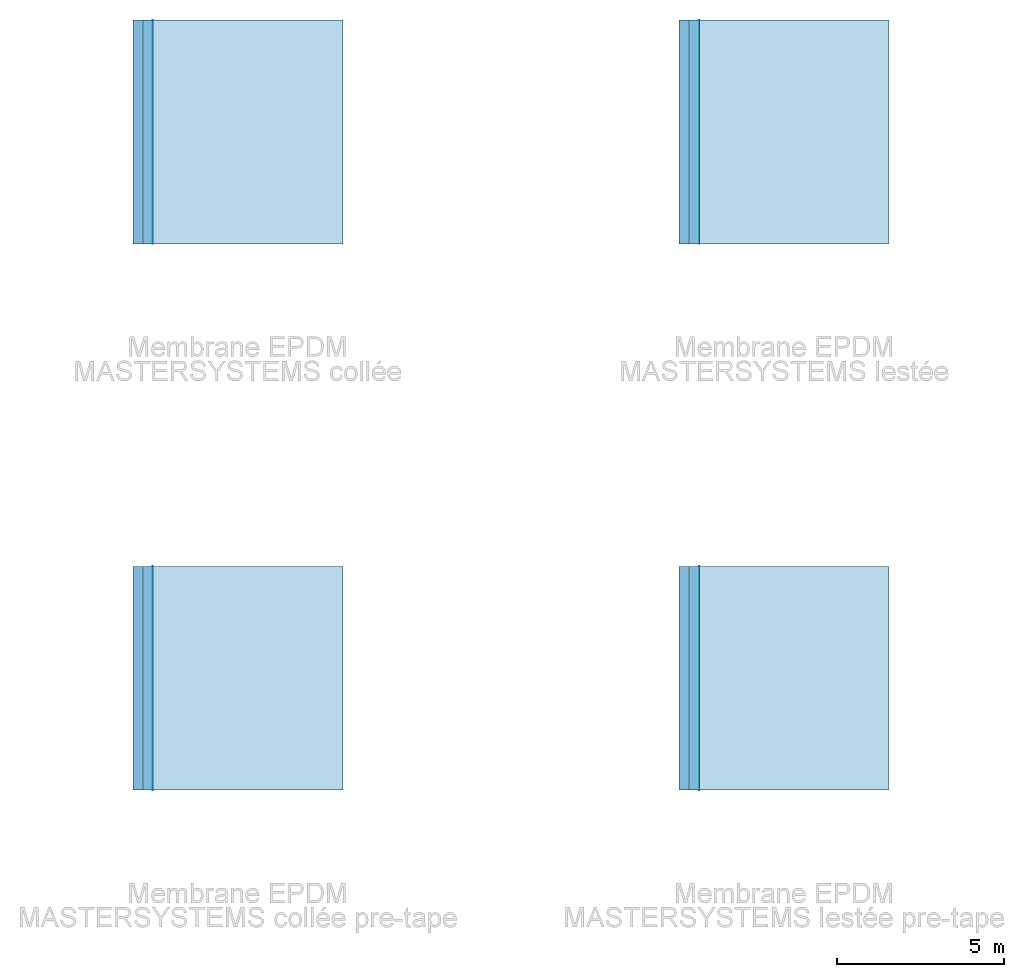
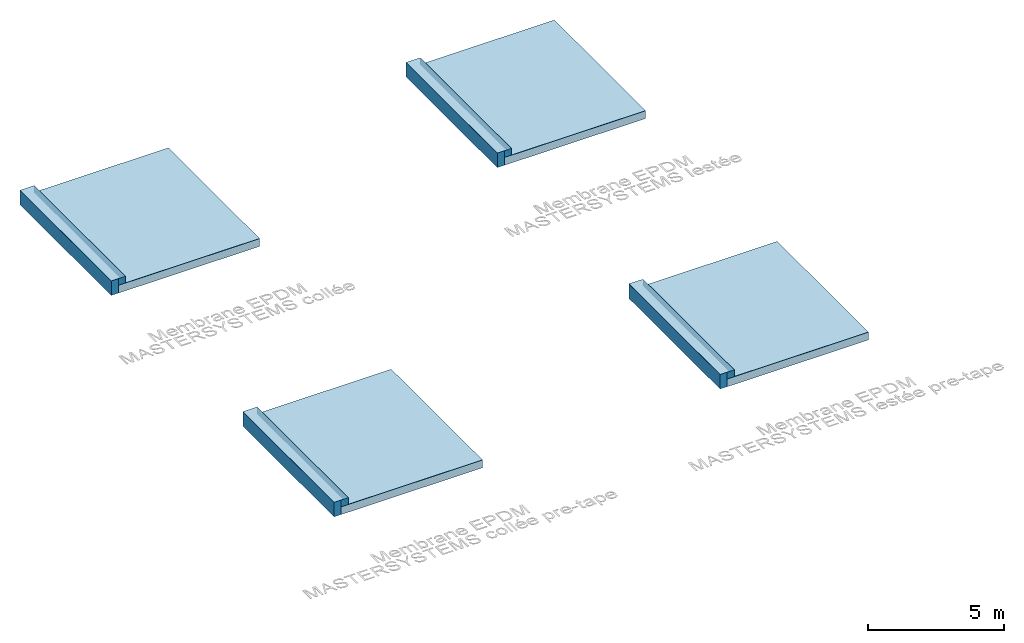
# One storey, incomplete: 12 slabs, 12 walls, 12 elements without a shape of their own.
"""IFC2X3 building model written with IfcOpenShell, lengths in millimetres."""

from ifc_helpers import new_model, entity, si_unit, converted_unit, derived_unit, direction, frame, frame_2d, origin, place, context, subcontext, project, spatial, polyline, rectangle, extrude, clip, bounded_halfspace, material, layer, layer_set, layer_usage, type_object, element, aggregate, save


model = new_model("IFC2X3")

# Units and contexts
model_context = context("Model", 3, precision=0.01, world=origin(), true_north=direction((6.12303176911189e-17, 1.0)))
body_context = subcontext(model_context, "Body", "Model", "MODEL_VIEW")
ifc_project = project(units=[si_unit("LENGTHUNIT", "METRE", prefix="MILLI"), si_unit("AREAUNIT", "SQUARE_METRE"), si_unit("VOLUMEUNIT", "CUBIC_METRE"), converted_unit("PLANEANGLEUNIT", "DEGREE", entity("IfcRatioMeasure", 0.0174532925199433), si_unit("PLANEANGLEUNIT", "RADIAN"), dimensions=[0, 0, 0, 0, 0, 0, 0]), si_unit("MASSUNIT", "GRAM", prefix="KILO"), derived_unit("MASSDENSITYUNIT", [(si_unit("MASSUNIT", "GRAM", prefix="KILO"), 1), (si_unit("LENGTHUNIT", "METRE"), -3)]), derived_unit("MOMENTOFINERTIAUNIT", [(si_unit("LENGTHUNIT", "METRE"), 4)]), si_unit("TIMEUNIT", "SECOND"), si_unit("FREQUENCYUNIT", "HERTZ"), si_unit("THERMODYNAMICTEMPERATUREUNIT", "DEGREE_CELSIUS"), derived_unit("THERMALTRANSMITTANCEUNIT", [(si_unit("MASSUNIT", "GRAM", prefix="KILO"), 1), (si_unit("THERMODYNAMICTEMPERATUREUNIT", "KELVIN"), -1), (si_unit("TIMEUNIT", "SECOND"), -3)]), derived_unit("VOLUMETRICFLOWRATEUNIT", [(si_unit("LENGTHUNIT", "METRE"), 3), (si_unit("TIMEUNIT", "SECOND"), -1)]), si_unit("ELECTRICCURRENTUNIT", "AMPERE"), si_unit("ELECTRICVOLTAGEUNIT", "VOLT"), si_unit("POWERUNIT", "WATT"), si_unit("FORCEUNIT", "NEWTON", prefix="KILO"), si_unit("ILLUMINANCEUNIT", "LUX"), si_unit("LUMINOUSFLUXUNIT", "LUMEN"), si_unit("LUMINOUSINTENSITYUNIT", "CANDELA"), derived_unit("USERDEFINED", [(si_unit("MASSUNIT", "GRAM", prefix="KILO"), -1), (si_unit("LENGTHUNIT", "METRE"), -2), (si_unit("TIMEUNIT", "SECOND"), 3), (si_unit("LUMINOUSFLUXUNIT", "LUMEN"), 1)]), derived_unit("LINEARVELOCITYUNIT", [(si_unit("LENGTHUNIT", "METRE"), 1), (si_unit("TIMEUNIT", "SECOND"), -1)]), si_unit("PRESSUREUNIT", "PASCAL"), derived_unit("USERDEFINED", [(si_unit("LENGTHUNIT", "METRE"), -2), (si_unit("MASSUNIT", "GRAM", prefix="KILO"), 1), (si_unit("TIMEUNIT", "SECOND"), -2)]), derived_unit("LINEARFORCEUNIT", [(si_unit("MASSUNIT", "GRAM", prefix="KILO"), 1), (si_unit("LENGTHUNIT", "METRE"), 1), (si_unit("TIMEUNIT", "SECOND"), -2), (si_unit("LENGTHUNIT", "METRE"), -1)]), derived_unit("PLANARFORCEUNIT", [(si_unit("MASSUNIT", "GRAM", prefix="KILO"), 1), (si_unit("LENGTHUNIT", "METRE"), 1), (si_unit("TIMEUNIT", "SECOND"), -2), (si_unit("LENGTHUNIT", "METRE"), -2)])], contexts=[model_context])

# Site, building, storey
site_placement = place(None, origin())
site = spatial("IfcSite", under=ifc_project, at=site_placement, Name="Default", CompositionType="ELEMENT")
building_placement = place(site_placement, origin())
building = spatial("IfcBuilding", under=site, at=building_placement, CompositionType="ELEMENT")
storey_placement = place(building_placement, origin())
storey = spatial("IfcBuildingStorey", under=building, at=storey_placement, Name="Niveau 1", CompositionType="ELEMENT", Elevation=0.0)

# Roof, slab
roof_1_placement = place(storey_placement, frame((23196.9860757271, 21211.4879507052, 0.0)))
roof_1 = element("IfcRoof", 1, at=roof_1_placement, inside=storey, Name="Toit de base:Membrane MASTERSYSTEMS EPDM lestée standard", ObjectType="Toit de base:Membrane MASTERSYSTEMS EPDM lestée standard", ShapeType="NOTDEFINED")
ifc_material_1 = material(Name="Film de protection polyester")
ifc_layer_1 = layer(ifc_material_1, 0.8)
ifc_material_2 = material(Name="Membrane EPDM caoutchouc MASTERSYSTEMS lestée")
ifc_layer_2 = layer(ifc_material_2, 2.2)
ifc_layer_set_1 = layer_set([ifc_layer_1, ifc_layer_2], Name="Toit de base:Membrane MASTERSYSTEMS EPDM lestée standard")
slab_type_1 = type_object("IfcSlabType", Name="Toit de base:Membrane MASTERSYSTEMS EPDM lestée standard", PredefinedType="ROOF")
slab_1_placement = place(roof_1_placement, origin())
slab_1 = element("IfcSlab", 2, at=slab_1_placement, type_object=slab_type_1, material=ifc_layer_set_1, Name="Toit de base:Membrane MASTERSYSTEMS EPDM lestée standard", ObjectType="Toit de base:Membrane MASTERSYSTEMS EPDM lestée standard", PredefinedType="ROOF", context=body_context, shape_type="SweptSolid", body=[
    extrude(rectangle(XDim=6714.46153846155, YDim=5699.99999999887, at=frame_2d((0.0, 0.0), x_axis=(0.0, 1.0))), frame((2850.0, 3357.23076923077, 0.0)), (0.0, 0.0, 1.0), 3.0),
])
aggregate(roof_1, [slab_1])

roof_2_placement = place(storey_placement, frame((22896.986075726, 21211.4879507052, -350.8)))
roof_2 = element("IfcRoof", 3, at=roof_2_placement, inside=storey, Name="Toit de base:Toit 1", ObjectType="Toit de base:Toit 1", ShapeType="NOTDEFINED")
ifc_material_3 = material(Name="Isolation")
ifc_layer_3 = layer(ifc_material_3, 100.0)
ifc_material_4 = material(Name="Pare vapeur")
ifc_layer_4 = layer(ifc_material_4, 0.8)
ifc_material_5 = material(Name="Béton de pente")
ifc_layer_5 = layer(ifc_material_5, 50.0)
ifc_material_6 = material(Name="Structure porteuse")
ifc_layer_6 = layer(ifc_material_6, 200.0)
ifc_layer_set_2 = layer_set([ifc_layer_3, ifc_layer_4, ifc_layer_5, ifc_layer_6], Name="Toit de base:Toit 1")
slab_type_2 = type_object("IfcSlabType", Name="Toit de base:Toit 1", PredefinedType="ROOF")
slab_2_placement = place(roof_2_placement, origin())
slab_2 = element("IfcSlab", 4, at=slab_2_placement, type_object=slab_type_2, material=ifc_layer_set_2, Name="Toit de base:Toit 1", ObjectType="Toit de base:Toit 1", PredefinedType="ROOF", context=body_context, shape_type="SweptSolid", body=[
    extrude(rectangle(XDim=6000.0, YDim=6714.46153846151, at=frame_2d((0.0, 2.27373675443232e-12), x_axis=(1.0, 0.0))), frame((3000.0, 3357.23076923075, 0.0)), (0.0, 0.0, 1.0), 350.8),
])
aggregate(roof_2, [slab_2])

roof_3_placement = place(storey_placement, frame((22596.9860757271, 21211.4879507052, 300.0)))
roof_3 = element("IfcRoof", 5, at=roof_3_placement, inside=storey, Name="Toit de base:Membrane MASTERSYSTEMS EPDM collée-Relevés et acrotères", ObjectType="Toit de base:Membrane MASTERSYSTEMS EPDM collée-Relevés et acrotères", ShapeType="NOTDEFINED")
ifc_material_7 = material(Name="Membrane EPDM caoutchouc MASTERSYSTEMS collée-Relevés et acrotères")
ifc_layer_7 = layer(ifc_material_7, 2.2)
ifc_material_8 = material(Name="Colle MASTERCONTACT PX300")
ifc_layer_8 = layer(ifc_material_8, 1.1)
ifc_layer_set_3 = layer_set([ifc_layer_7, ifc_layer_8], Name="Toit de base:Membrane MASTERSYSTEMS EPDM collée-Relevés et acrotères")
slab_type_3 = type_object("IfcSlabType", Name="Toit de base:Membrane MASTERSYSTEMS EPDM collée-Relevés et acrotères", PredefinedType="ROOF")
slab_3_placement = place(roof_3_placement, origin())
slab_3 = element("IfcSlab", 6, at=slab_3_placement, type_object=slab_type_3, material=ifc_layer_set_3, Name="Toit de base:Membrane MASTERSYSTEMS EPDM collée-Relevés et acrotères", ObjectType="Toit de base:Membrane MASTERSYSTEMS EPDM collée-Relevés et acrotères", PredefinedType="ROOF", context=body_context, shape_type="SweptSolid", body=[
    extrude(rectangle(XDim=6714.46153846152, YDim=603.299999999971, at=frame_2d((2.18847162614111e-12, 0.0), x_axis=(0.0, 1.0))), frame((301.649999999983, 3357.23076923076, 0.0)), (0.0, 0.0, 1.0), 3.29999999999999),
])
aggregate(roof_3, [slab_3])

roof_4_placement = place(storey_placement, frame((6801.7860757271, 21211.4879507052, 0.0)))
roof_4 = element("IfcRoof", 7, at=roof_4_placement, inside=storey, Name="Toit de base:Membrane MASTERSYSTEMS EPDM collée standard", ObjectType="Toit de base:Membrane MASTERSYSTEMS EPDM collée standard", ShapeType="NOTDEFINED")
ifc_material_9 = material(Name="Membrane EPDM caoutchouc MASTERSYSTEMS collée")
ifc_layer_9 = layer(ifc_material_9, 2.2)
ifc_layer_10 = layer(ifc_material_8, 1.1)
ifc_layer_set_4 = layer_set([ifc_layer_9, ifc_layer_10], Name="Toit de base:Membrane MASTERSYSTEMS EPDM collée standard")
slab_type_4 = type_object("IfcSlabType", Name="Toit de base:Membrane MASTERSYSTEMS EPDM collée standard", PredefinedType="ROOF")
slab_4_placement = place(roof_4_placement, origin())
slab_4 = element("IfcSlab", 8, at=slab_4_placement, type_object=slab_type_4, material=ifc_layer_set_4, Name="Toit de base:Membrane MASTERSYSTEMS EPDM collée standard", ObjectType="Toit de base:Membrane MASTERSYSTEMS EPDM collée standard", PredefinedType="ROOF", context=body_context, shape_type="SweptSolid", body=[
    extrude(rectangle(XDim=6714.46153846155, YDim=5699.99999999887, at=frame_2d((-6.82121026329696e-13, 0.0), x_axis=(0.0, 1.0))), frame((2850.0, 3357.23076923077, 0.0)), (0.0, 0.0, 1.0), 3.3),
])
aggregate(roof_4, [slab_4])

roof_5_placement = place(storey_placement, frame((6501.78607572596, 21211.4879507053, -350.8)))
roof_5 = element("IfcRoof", 9, at=roof_5_placement, inside=storey, Name="Toit de base:Toit 1", ObjectType="Toit de base:Toit 1", ShapeType="NOTDEFINED")
slab_type_5 = type_object("IfcSlabType", Name="Toit de base:Toit 1", PredefinedType="ROOF")
slab_5_placement = place(roof_5_placement, origin())
slab_5 = element("IfcSlab", 10, at=slab_5_placement, type_object=slab_type_5, material=ifc_layer_set_2, Name="Toit de base:Toit 1", ObjectType="Toit de base:Toit 1", PredefinedType="ROOF", context=body_context, shape_type="SweptSolid", body=[
    extrude(rectangle(XDim=6000.0, YDim=6714.46153846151, at=frame_2d((4.54747350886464e-13, 2.27373675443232e-12), x_axis=(1.0, 0.0))), frame((3000.0, 3357.23076923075, 0.0)), (0.0, 0.0, 1.0), 350.8),
])
aggregate(roof_5, [slab_5])

roof_6_placement = place(storey_placement, frame((6201.78607572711, 21211.4879507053, 300.0)))
roof_6 = element("IfcRoof", 11, at=roof_6_placement, inside=storey, Name="Toit de base:Membrane MASTERSYSTEMS EPDM collée-Relevés et acrotères", ObjectType="Toit de base:Membrane MASTERSYSTEMS EPDM collée-Relevés et acrotères", ShapeType="NOTDEFINED")
slab_type_6 = type_object("IfcSlabType", Name="Toit de base:Membrane MASTERSYSTEMS EPDM collée-Relevés et acrotères", PredefinedType="ROOF")
slab_6_placement = place(roof_6_placement, origin())
slab_6 = element("IfcSlab", 12, at=slab_6_placement, type_object=slab_type_6, material=ifc_layer_set_3, Name="Toit de base:Membrane MASTERSYSTEMS EPDM collée-Relevés et acrotères", ObjectType="Toit de base:Membrane MASTERSYSTEMS EPDM collée-Relevés et acrotères", PredefinedType="ROOF", context=body_context, shape_type="SweptSolid", body=[
    extrude(rectangle(XDim=6714.46153846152, YDim=603.299999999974, at=frame_2d((-5.40012479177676e-13, 0.0), x_axis=(0.0, 1.0))), frame((301.649999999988, 3357.23076923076, 0.0)), (0.0, 0.0, 1.0), 3.29999999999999),
])
aggregate(roof_6, [slab_6])

roof_7_placement = place(storey_placement, frame((6801.78607572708, 4816.28795070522, 0.0)))
roof_7 = element("IfcRoof", 13, at=roof_7_placement, inside=storey, Name="Toit de base:Membrane MASTERSYSTEMS EPDM collée pre-tape", ObjectType="Toit de base:Membrane MASTERSYSTEMS EPDM collée pre-tape", ShapeType="NOTDEFINED")
ifc_material_10 = material(Name="Membrane EPDM en caoutchouc MASTERSYSTEMS collée pre-tape")
ifc_layer_11 = layer(ifc_material_10, 2.2)
ifc_layer_12 = layer(ifc_material_8, 1.1)
ifc_layer_set_5 = layer_set([ifc_layer_11, ifc_layer_12], Name="Toit de base:Membrane MASTERSYSTEMS EPDM collée pre-tape")
slab_type_7 = type_object("IfcSlabType", Name="Toit de base:Membrane MASTERSYSTEMS EPDM collée pre-tape", PredefinedType="ROOF")
slab_7_placement = place(roof_7_placement, origin())
slab_7 = element("IfcSlab", 14, at=slab_7_placement, type_object=slab_type_7, material=ifc_layer_set_5, Name="Toit de base:Membrane MASTERSYSTEMS EPDM collée pre-tape", ObjectType="Toit de base:Membrane MASTERSYSTEMS EPDM collée pre-tape", PredefinedType="ROOF", context=body_context, shape_type="SweptSolid", body=[
    extrude(rectangle(XDim=6714.46153846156, YDim=5699.99999999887, at=frame_2d((-6.82121026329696e-13, 4.54747350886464e-13), x_axis=(0.0, 1.0))), frame((2850.0, 3357.23076923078, 0.0)), (0.0, 0.0, 1.0), 3.3),
])
aggregate(roof_7, [slab_7])

roof_8_placement = place(storey_placement, frame((6501.78607572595, 4816.28795070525, -350.8)))
roof_8 = element("IfcRoof", 15, at=roof_8_placement, inside=storey, Name="Toit de base:Toit 1", ObjectType="Toit de base:Toit 1", ShapeType="NOTDEFINED")
slab_type_8 = type_object("IfcSlabType", Name="Toit de base:Toit 1", PredefinedType="ROOF")
slab_8_placement = place(roof_8_placement, origin())
slab_8 = element("IfcSlab", 16, at=slab_8_placement, type_object=slab_type_8, material=ifc_layer_set_2, Name="Toit de base:Toit 1", ObjectType="Toit de base:Toit 1", PredefinedType="ROOF", context=body_context, shape_type="SweptSolid", body=[
    extrude(rectangle(XDim=6000.0, YDim=6714.46153846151, at=frame_2d((4.54747350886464e-13, -4.54747350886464e-13), x_axis=(1.0, 0.0))), frame((3000.0, 3357.23076923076, 0.0)), (0.0, 0.0, 1.0), 350.8),
])
aggregate(roof_8, [slab_8])

roof_9_placement = place(storey_placement, frame((6201.78607572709, 4816.28795070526, 300.0)))
roof_9 = element("IfcRoof", 17, at=roof_9_placement, inside=storey, Name="Toit de base:Membrane MASTERSYSTEMS EPDM collée-Relevés et acrotères", ObjectType="Toit de base:Membrane MASTERSYSTEMS EPDM collée-Relevés et acrotères", ShapeType="NOTDEFINED")
slab_type_9 = type_object("IfcSlabType", Name="Toit de base:Membrane MASTERSYSTEMS EPDM collée-Relevés et acrotères", PredefinedType="ROOF")
slab_9_placement = place(roof_9_placement, origin())
slab_9 = element("IfcSlab", 18, at=slab_9_placement, type_object=slab_type_9, material=ifc_layer_set_3, Name="Toit de base:Membrane MASTERSYSTEMS EPDM collée-Relevés et acrotères", ObjectType="Toit de base:Membrane MASTERSYSTEMS EPDM collée-Relevés et acrotères", PredefinedType="ROOF", context=body_context, shape_type="SweptSolid", body=[
    extrude(rectangle(XDim=6714.46153846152, YDim=603.299999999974, at=frame_2d((-5.40012479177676e-13, -9.09494701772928e-13), x_axis=(0.0, 1.0))), frame((301.649999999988, 3357.23076923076, 0.0)), (0.0, 0.0, 1.0), 3.29999999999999),
])
aggregate(roof_9, [slab_9])

roof_10_placement = place(storey_placement, frame((23196.9860757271, 4816.28795070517, 0.0)))
roof_10 = element("IfcRoof", 19, at=roof_10_placement, inside=storey, Name="Toit de base:Membrane MASTERSYSTEMS EPDM lestée pre-tape", ObjectType="Toit de base:Membrane MASTERSYSTEMS EPDM lestée pre-tape", ShapeType="NOTDEFINED")
ifc_layer_13 = layer(ifc_material_1, 0.8)
ifc_material_11 = material(Name="Membrane EPDM en caoutchouc MASTERSYSTEMS lestée pre-tape")
ifc_layer_14 = layer(ifc_material_11, 2.2)
ifc_layer_set_6 = layer_set([ifc_layer_13, ifc_layer_14], Name="Toit de base:Membrane MASTERSYSTEMS EPDM lestée pre-tape")
slab_type_10 = type_object("IfcSlabType", Name="Toit de base:Membrane MASTERSYSTEMS EPDM lestée pre-tape", PredefinedType="ROOF")
slab_10_placement = place(roof_10_placement, origin())
slab_10 = element("IfcSlab", 20, at=slab_10_placement, type_object=slab_type_10, material=ifc_layer_set_6, Name="Toit de base:Membrane MASTERSYSTEMS EPDM lestée pre-tape", ObjectType="Toit de base:Membrane MASTERSYSTEMS EPDM lestée pre-tape", PredefinedType="ROOF", context=body_context, shape_type="SweptSolid", body=[
    extrude(rectangle(XDim=6714.46153846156, YDim=5699.99999999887, at=frame_2d((0.0, -6.82121026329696e-13), x_axis=(0.0, 1.0))), frame((2850.0, 3357.23076923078, 0.0)), (0.0, 0.0, 1.0), 3.0),
])
aggregate(roof_10, [slab_10])

roof_11_placement = place(storey_placement, frame((22896.9860757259, 4816.2879507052, -350.8)))
roof_11 = element("IfcRoof", 21, at=roof_11_placement, inside=storey, Name="Toit de base:Toit 1", ObjectType="Toit de base:Toit 1", ShapeType="NOTDEFINED")
slab_type_11 = type_object("IfcSlabType", Name="Toit de base:Toit 1", PredefinedType="ROOF")
slab_11_placement = place(roof_11_placement, origin())
slab_11 = element("IfcSlab", 22, at=slab_11_placement, type_object=slab_type_11, material=ifc_layer_set_2, Name="Toit de base:Toit 1", ObjectType="Toit de base:Toit 1", PredefinedType="ROOF", context=body_context, shape_type="SweptSolid", body=[
    extrude(rectangle(XDim=6000.0, YDim=6714.46153846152, at=frame_2d((0.0, -1.59161572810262e-12), x_axis=(1.0, 0.0))), frame((3000.0, 3357.23076923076, 0.0)), (0.0, 0.0, 1.0), 350.8),
])
aggregate(roof_11, [slab_11])

roof_12_placement = place(storey_placement, frame((22596.9860757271, 4816.28795070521, 300.0)))
roof_12 = element("IfcRoof", 23, at=roof_12_placement, inside=storey, Name="Toit de base:Membrane MASTERSYSTEMS EPDM collée-Relevés et acrotères", ObjectType="Toit de base:Membrane MASTERSYSTEMS EPDM collée-Relevés et acrotères", ShapeType="NOTDEFINED")
slab_type_12 = type_object("IfcSlabType", Name="Toit de base:Membrane MASTERSYSTEMS EPDM collée-Relevés et acrotères", PredefinedType="ROOF")
slab_12_placement = place(roof_12_placement, origin())
slab_12 = element("IfcSlab", 24, at=slab_12_placement, type_object=slab_type_12, material=ifc_layer_set_3, Name="Toit de base:Membrane MASTERSYSTEMS EPDM collée-Relevés et acrotères", ObjectType="Toit de base:Membrane MASTERSYSTEMS EPDM collée-Relevés et acrotères", PredefinedType="ROOF", context=body_context, shape_type="SweptSolid", body=[
    extrude(rectangle(XDim=6714.46153846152, YDim=603.299999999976, at=frame_2d((0.0, 0.0), x_axis=(0.0, 1.0))), frame((301.649999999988, 3357.23076923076, 0.0)), (0.0, 0.0, 1.0), 3.29999999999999),
])
aggregate(roof_12, [slab_12])

# Walls
ifc_layer_15 = layer(ifc_material_3, 100.0)
ifc_material_12 = material(Name="Maçonnerie ascendante")
ifc_layer_16 = layer(ifc_material_12, 200.0)
ifc_layer_set_7 = layer_set([ifc_layer_15, ifc_layer_16], Name="Mur de base:Mur 1")
ifc_layer_usage_1 = layer_usage(ifc_layer_set_7, "AXIS2", "NEGATIVE", 150.0)
wall_type_1 = type_object("IfcWallType", Name="Mur de base:Mur 1", PredefinedType="STANDARD", material=ifc_layer_set_7)
wall_1_placement = place(storey_placement, frame((22746.9860757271, 27925.9494891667, -350.8), z_axis=(0.0, 0.0, 1.0), x_axis=(0.0, -1.0, 0.0)))
element("IfcWallStandardCase", 25, at=wall_1_placement, inside=storey, type_object=wall_type_1, material=ifc_layer_usage_1, Name="Mur de base:Mur 1", ObjectType="Mur de base:Mur 1", context=body_context, shape_type="Clipping", body=[
    clip(extrude(rectangle(XDim=6714.46153846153, YDim=300.000000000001, at=frame_2d((3357.23076923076, 5.40012479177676e-13), x_axis=(-1.0, 0.0))), origin(), (0.0, 0.0, 1.0), 650.8), bounded_halfspace(frame((0.0, -150.0, 650.8), z_axis=(0.0, 0.0, 1.0), x_axis=(0.0, 1.0, 0.0)), False, frame((0.0, -150.0, 650.8)), polyline([(0.0, 0.0), (6714.46153846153, 0.0), (6714.46153846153, 300.0), (0.0, 300.0), (0.0, 0.0)]))),
])
ifc_layer_usage_2 = layer_usage(ifc_layer_set_7, "AXIS2", "NEGATIVE", 150.0)
wall_2_placement = place(storey_placement, frame((23046.9860757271, 27925.9494891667, 0.0), z_axis=(0.0, 0.0, 1.0), x_axis=(0.0, -1.0, 0.0)))
element("IfcWallStandardCase", 26, at=wall_2_placement, inside=storey, type_object=wall_type_1, material=ifc_layer_usage_2, Name="Mur de base:Mur 1", ObjectType="Mur de base:Mur 1", context=body_context, shape_type="Clipping", body=[
    clip(extrude(rectangle(XDim=6714.46153846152, YDim=300.000000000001, at=frame_2d((3357.23076923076, 5.40012479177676e-13), x_axis=(-1.0, 0.0))), origin(), (0.0, 0.0, 1.0), 300.0), bounded_halfspace(frame((0.0, -150.0, 300.0), z_axis=(0.0, 0.0, 1.0), x_axis=(0.0, 1.0, 0.0)), False, frame((0.0, -150.0, 300.0)), polyline([(0.0, 0.0), (6714.46153846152, 0.0), (6714.46153846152, 300.0), (0.0, 300.0), (0.0, 0.0)]))),
])
ifc_layer_usage_3 = layer_usage(ifc_layer_set_7, "AXIS2", "NEGATIVE", 150.0)
wall_3_placement = place(storey_placement, frame((6351.78607572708, 27925.9494891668, -350.8), z_axis=(0.0, 0.0, 1.0), x_axis=(0.0, -1.0, 0.0)))
element("IfcWallStandardCase", 27, at=wall_3_placement, inside=storey, type_object=wall_type_1, material=ifc_layer_usage_3, Name="Mur de base:Mur 1", ObjectType="Mur de base:Mur 1", context=body_context, shape_type="SweptSolid", body=[
    extrude(rectangle(XDim=6714.46153846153, YDim=300.000000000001, at=frame_2d((3357.23076923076, 0.0), x_axis=(-1.0, 0.0))), origin(), (0.0, 0.0, 1.0), 650.8),
])
ifc_layer_usage_4 = layer_usage(ifc_layer_set_7, "AXIS2", "NEGATIVE", 150.0)
wall_4_placement = place(storey_placement, frame((6651.7860757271, 27925.9494891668, 0.0), z_axis=(0.0, 0.0, 1.0), x_axis=(0.0, -1.0, 0.0)))
element("IfcWallStandardCase", 28, at=wall_4_placement, inside=storey, type_object=wall_type_1, material=ifc_layer_usage_4, Name="Mur de base:Mur 1", ObjectType="Mur de base:Mur 1", context=body_context, shape_type="SweptSolid", body=[
    extrude(rectangle(XDim=6714.46153846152, YDim=300.000000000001, at=frame_2d((3357.23076923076, 0.0), x_axis=(-1.0, 0.0))), origin(), (0.0, 0.0, 1.0), 300.0),
])
ifc_layer_usage_5 = layer_usage(ifc_layer_set_7, "AXIS2", "NEGATIVE", 150.0)
wall_5_placement = place(storey_placement, frame((6351.78607572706, 11530.7494891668, -350.8), z_axis=(0.0, 0.0, 1.0), x_axis=(0.0, -1.0, 0.0)))
element("IfcWallStandardCase", 29, at=wall_5_placement, inside=storey, type_object=wall_type_1, material=ifc_layer_usage_5, Name="Mur de base:Mur 1", ObjectType="Mur de base:Mur 1", context=body_context, shape_type="SweptSolid", body=[
    extrude(rectangle(XDim=6714.46153846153, YDim=300.000000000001, at=frame_2d((3357.23076923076, 0.0), x_axis=(-1.0, 0.0))), origin(), (0.0, 0.0, 1.0), 650.8),
])
ifc_layer_usage_6 = layer_usage(ifc_layer_set_7, "AXIS2", "NEGATIVE", 150.0)
wall_6_placement = place(storey_placement, frame((6651.78607572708, 11530.7494891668, 0.0), z_axis=(0.0, 0.0, 1.0), x_axis=(0.0, -1.0, 0.0)))
element("IfcWallStandardCase", 30, at=wall_6_placement, inside=storey, type_object=wall_type_1, material=ifc_layer_usage_6, Name="Mur de base:Mur 1", ObjectType="Mur de base:Mur 1", context=body_context, shape_type="SweptSolid", body=[
    extrude(rectangle(XDim=6714.46153846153, YDim=300.000000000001, at=frame_2d((3357.23076923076, 0.0), x_axis=(-1.0, 0.0))), origin(), (0.0, 0.0, 1.0), 300.0),
])
ifc_layer_usage_7 = layer_usage(ifc_layer_set_7, "AXIS2", "NEGATIVE", 150.0)
wall_7_placement = place(storey_placement, frame((22746.9860757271, 11530.7494891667, -350.8), z_axis=(0.0, 0.0, 1.0), x_axis=(0.0, -1.0, 0.0)))
element("IfcWallStandardCase", 31, at=wall_7_placement, inside=storey, type_object=wall_type_1, material=ifc_layer_usage_7, Name="Mur de base:Mur 1", ObjectType="Mur de base:Mur 1", context=body_context, shape_type="SweptSolid", body=[
    extrude(rectangle(XDim=6714.46153846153, YDim=300.000000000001, at=frame_2d((3357.23076923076, 5.40012479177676e-13), x_axis=(-1.0, 0.0))), origin(), (0.0, 0.0, 1.0), 650.8),
])
ifc_layer_usage_8 = layer_usage(ifc_layer_set_7, "AXIS2", "NEGATIVE", 150.0)
wall_8_placement = place(storey_placement, frame((23046.9860757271, 11530.7494891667, 0.0), z_axis=(0.0, 0.0, 1.0), x_axis=(0.0, -1.0, 0.0)))
element("IfcWallStandardCase", 32, at=wall_8_placement, inside=storey, type_object=wall_type_1, material=ifc_layer_usage_8, Name="Mur de base:Mur 1", ObjectType="Mur de base:Mur 1", context=body_context, shape_type="SweptSolid", body=[
    extrude(rectangle(XDim=6714.46153846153, YDim=300.000000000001, at=frame_2d((3357.23076923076, 5.40012479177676e-13), x_axis=(-1.0, 0.0))), origin(), (0.0, 0.0, 1.0), 300.0),
])
ifc_layer_17 = layer(ifc_material_7, 2.2)
ifc_layer_18 = layer(ifc_material_8, 1.1)
ifc_layer_set_8 = layer_set([ifc_layer_17, ifc_layer_18], Name="Mur de base:Membrane MASTERSYSTEMS EPDM collée-Relevés et acrotères")
ifc_layer_usage_9 = layer_usage(ifc_layer_set_8, "AXIS2", "NEGATIVE", 1.65)
wall_type_2 = type_object("IfcWallType", Name="Mur de base:Membrane MASTERSYSTEMS EPDM collée-Relevés et acrotères", PredefinedType="STANDARD", material=ifc_layer_set_8)
wall_9_placement = place(storey_placement, frame((23198.6360757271, 21211.4879507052, 3.0), z_axis=(0.0, 0.0, 1.0), x_axis=(0.0, 1.0, 0.0)))
element("IfcWallStandardCase", 33, at=wall_9_placement, inside=storey, type_object=wall_type_2, material=ifc_layer_usage_9, Name="Mur de base:Membrane MASTERSYSTEMS EPDM collée-Relevés et acrotères", ObjectType="Mur de base:Membrane MASTERSYSTEMS EPDM collée-Relevés et acrotères", context=body_context, shape_type="Clipping", body=[
    clip(extrude(rectangle(XDim=6714.46153846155, YDim=3.29999999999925, at=frame_2d((3357.23076923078, 3.9235281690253e-13), x_axis=(-1.0, 0.0))), origin(), (0.0, 0.0, 1.0), 297.0), bounded_halfspace(frame((0.0, -1.65000000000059, 297.0), z_axis=(0.0, 0.0, 1.0), x_axis=(0.0, -1.0, 0.0)), False, frame((0.0, -1.65000000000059, 297.0)), polyline([(0.0, 0.0), (6714.46153846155, 0.0), (6714.46153846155, 3.30000000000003), (0.0, 3.29999999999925), (0.0, 0.0)]))),
])
ifc_layer_usage_10 = layer_usage(ifc_layer_set_8, "AXIS2", "NEGATIVE", 1.65)
wall_10_placement = place(storey_placement, frame((6803.43607572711, 21211.4879507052, 3.29999999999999), z_axis=(0.0, 0.0, 1.0), x_axis=(0.0, 1.0, 0.0)))
element("IfcWallStandardCase", 34, at=wall_10_placement, inside=storey, type_object=wall_type_2, material=ifc_layer_usage_10, Name="Mur de base:Membrane MASTERSYSTEMS EPDM collée-Relevés et acrotères", ObjectType="Mur de base:Membrane MASTERSYSTEMS EPDM collée-Relevés et acrotères", context=body_context, shape_type="SweptSolid", body=[
    extrude(rectangle(XDim=6714.46153846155, YDim=3.29999999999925, at=frame_2d((3357.23076923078, -1.49102952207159e-13), x_axis=(-1.0, 0.0))), origin(), (0.0, 0.0, 1.0), 296.7),
])
ifc_layer_usage_11 = layer_usage(ifc_layer_set_8, "AXIS2", "NEGATIVE", 1.65)
wall_11_placement = place(storey_placement, frame((6803.43607572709, 4816.28795070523, 3.29999999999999), z_axis=(0.0, 0.0, 1.0), x_axis=(0.0, 1.0, 0.0)))
element("IfcWallStandardCase", 35, at=wall_11_placement, inside=storey, type_object=wall_type_2, material=ifc_layer_usage_11, Name="Mur de base:Membrane MASTERSYSTEMS EPDM collée-Relevés et acrotères", ObjectType="Mur de base:Membrane MASTERSYSTEMS EPDM collée-Relevés et acrotères", context=body_context, shape_type="SweptSolid", body=[
    extrude(rectangle(XDim=6714.46153846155, YDim=3.29999999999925, at=frame_2d((3357.23076923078, -1.49102952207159e-13), x_axis=(-1.0, 0.0))), origin(), (0.0, 0.0, 1.0), 296.7),
])
ifc_layer_usage_12 = layer_usage(ifc_layer_set_8, "AXIS2", "NEGATIVE", 1.65)
wall_12_placement = place(storey_placement, frame((23198.6360757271, 4816.28795070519, 3.0), z_axis=(0.0, 0.0, 1.0), x_axis=(0.0, 1.0, 0.0)))
element("IfcWallStandardCase", 36, at=wall_12_placement, inside=storey, type_object=wall_type_2, material=ifc_layer_usage_12, Name="Mur de base:Membrane MASTERSYSTEMS EPDM collée-Relevés et acrotères", ObjectType="Mur de base:Membrane MASTERSYSTEMS EPDM collée-Relevés et acrotères", context=body_context, shape_type="SweptSolid", body=[
    extrude(rectangle(XDim=6714.46153846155, YDim=3.29999999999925, at=frame_2d((3357.23076923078, 3.9235281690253e-13), x_axis=(-1.0, 0.0))), origin(), (0.0, 0.0, 1.0), 297.0),
])

save(model, "model.ifc")
